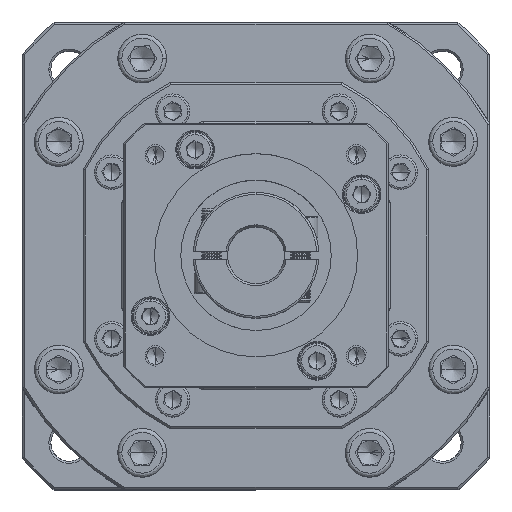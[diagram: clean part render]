
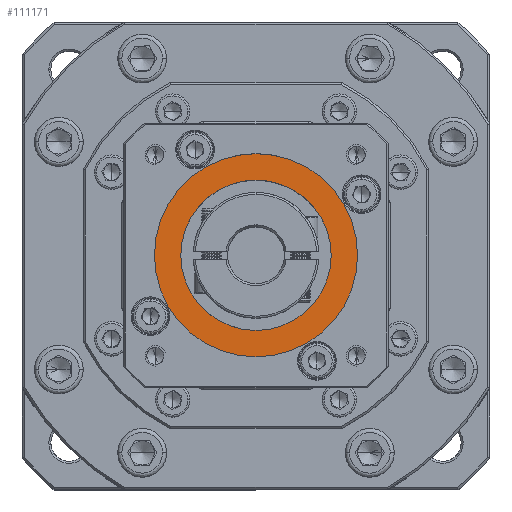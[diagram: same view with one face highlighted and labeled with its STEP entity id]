
A CAD part, top view. The second image highlights one B-rep face of the part: STEP entity #111171.
In plain terms, the highlighted planar face has unit normal (0, 0, 1).
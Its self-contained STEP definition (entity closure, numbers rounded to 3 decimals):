
#4284 = CIRCLE ( 'NONE', #84733, 25. ) ;
#8347 = CARTESIAN_POINT ( 'NONE',  ( 81.745, 110.292, -21.348 ) ) ;
#10475 = CIRCLE ( 'NONE', #135117, 25. ) ;
#13207 = VERTEX_POINT ( 'NONE', #49303 ) ;
#15191 = FACE_BOUND ( 'NONE', #42305, .T. ) ;
#15550 = AXIS2_PLACEMENT_3D ( 'NONE', #40429, #50610, #118746 ) ;
#17632 = EDGE_CURVE ( 'NONE', #92221, #13207, #43241, .T. ) ;
#22162 = EDGE_CURVE ( 'NONE', #13207, #92221, #38507, .T. ) ;
#22291 = DIRECTION ( 'NONE',  ( 0., 0., -1. ) ) ;
#31864 = CARTESIAN_POINT ( 'NONE',  ( 81.745, 85.292, -21.348 ) ) ;
#35686 = EDGE_LOOP ( 'NONE', ( #64221, #98489 ) ) ;
#38507 = CIRCLE ( 'NONE', #15550, 18.5 ) ;
#40429 = CARTESIAN_POINT ( 'NONE',  ( 81.745, 85.292, -21.348 ) ) ;
#42305 = EDGE_LOOP ( 'NONE', ( #68962, #53549 ) ) ;
#43241 = CIRCLE ( 'NONE', #48724, 18.5 ) ;
#45067 = DIRECTION ( 'NONE',  ( 0., 1., 0. ) ) ;
#48724 = AXIS2_PLACEMENT_3D ( 'NONE', #132122, #22291, #45067 ) ;
#49303 = CARTESIAN_POINT ( 'NONE',  ( 81.745, 103.792, -21.348 ) ) ;
#50610 = DIRECTION ( 'NONE',  ( 0., 0., -1. ) ) ;
#53549 = ORIENTED_EDGE ( 'NONE', *, *, #17632, .T. ) ;
#53645 = PLANE ( 'NONE',  #141502 ) ;
#54552 = CARTESIAN_POINT ( 'NONE',  ( 81.745, 85.292, -21.348 ) ) ;
#64221 = ORIENTED_EDGE ( 'NONE', *, *, #91347, .T. ) ;
#68962 = ORIENTED_EDGE ( 'NONE', *, *, #22162, .T. ) ;
#74221 = CARTESIAN_POINT ( 'NONE',  ( 81.745, 85.292, -21.348 ) ) ;
#81890 = VERTEX_POINT ( 'NONE', #8347 ) ;
#84733 = AXIS2_PLACEMENT_3D ( 'NONE', #74221, #95510, #94570 ) ;
#88542 = DIRECTION ( 'NONE',  ( 0., 1., 0. ) ) ;
#91347 = EDGE_CURVE ( 'NONE', #81890, #119660, #4284, .T. ) ;
#92221 = VERTEX_POINT ( 'NONE', #104393 ) ;
#94570 = DIRECTION ( 'NONE',  ( 0., 1., 0. ) ) ;
#95510 = DIRECTION ( 'NONE',  ( 0., 0., 1. ) ) ;
#98489 = ORIENTED_EDGE ( 'NONE', *, *, #114735, .T. ) ;
#104393 = CARTESIAN_POINT ( 'NONE',  ( 81.745, 66.792, -21.348 ) ) ;
#110712 = DIRECTION ( 'NONE',  ( 0., 0., 1. ) ) ;
#111171 = ADVANCED_FACE ( 'NONE', ( #132828, #15191 ), #53645, .T. ) ;
#114735 = EDGE_CURVE ( 'NONE', #119660, #81890, #10475, .T. ) ;
#118746 = DIRECTION ( 'NONE',  ( 0., 1., 0. ) ) ;
#119660 = VERTEX_POINT ( 'NONE', #127284 ) ;
#121272 = DIRECTION ( 'NONE',  ( 0., 1., 0. ) ) ;
#121747 = DIRECTION ( 'NONE',  ( 0., 0., 1. ) ) ;
#127284 = CARTESIAN_POINT ( 'NONE',  ( 81.745, 60.292, -21.348 ) ) ;
#132122 = CARTESIAN_POINT ( 'NONE',  ( 81.745, 85.292, -21.348 ) ) ;
#132828 = FACE_OUTER_BOUND ( 'NONE', #35686, .T. ) ;
#135117 = AXIS2_PLACEMENT_3D ( 'NONE', #54552, #121747, #121272 ) ;
#141502 = AXIS2_PLACEMENT_3D ( 'NONE', #31864, #110712, #88542 ) ;
